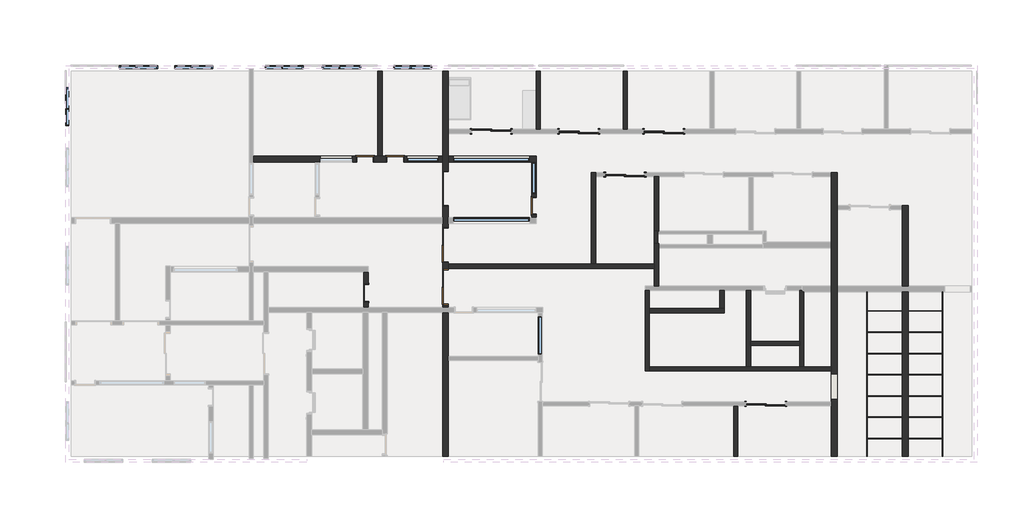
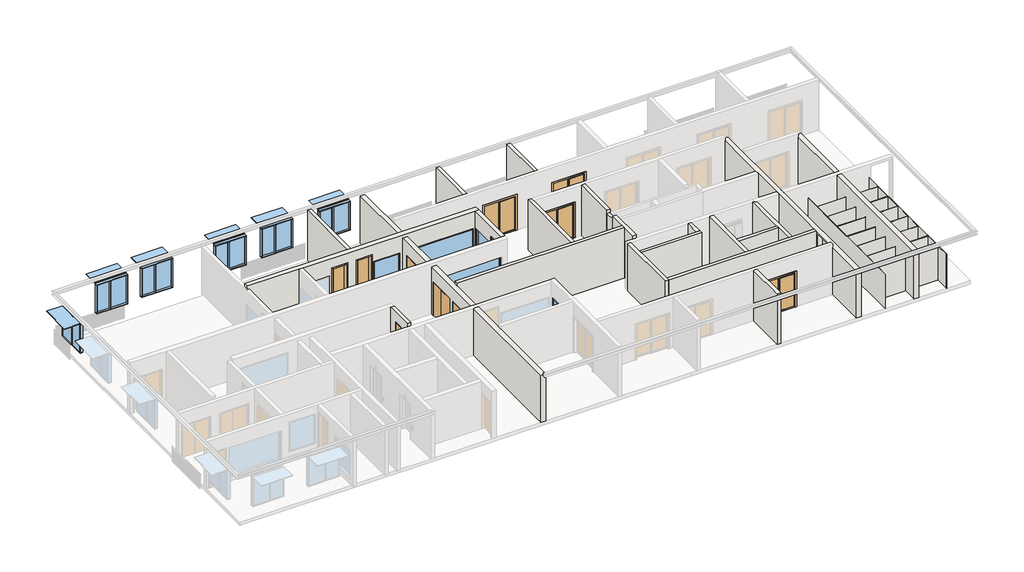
# One storey, part 2 of 5: 38 walls, 12 doors, 11 windows.
"""IFC4 building model written with IfcOpenShell, lengths in millimetres."""

from ifc_helpers import new_model, si_unit, frame, origin, place, context, project, spatial, polyline, outline, extrude, faceted_brep, transform, mapped, element, save
from components import sliding_2_panel_1830_x_2134mm_cc41b145, swing_double_aluminium_frame_door_2040x820x2_040121c3, swing_double_aluminium_frame_door_2040x820x2_4b5585a8, swing_metal_frame_single_dor1_c5ce34d2, swing_metal_frame_single_dor1_8b558513, swing_metal_frame_single_dor1_247f4e75, window_bottom_hung_window_bottom_hung_3b05c637, window_fixed_1500mm_wide_9b338267, window_fixed_1500mm_wide_722047fe, window_fixed_1800mm_wide_fccb3e1f, window_fixed_3600mm_wide_8deb48f9

model = new_model("IFC4")

# Units and contexts
model_context = context("Model", 3, world=origin())
ifc_project = project(units=[si_unit("LENGTHUNIT", "METRE", prefix="MILLI")], contexts=[model_context])

# Site, building, storey
site = spatial("IfcSite", under=ifc_project)
building = spatial("IfcBuilding", under=site)
storey = spatial("IfcBuildingStorey", under=building, Name="3階", Elevation=36100.0)

# Doors
placement = place(None, origin())
sliding_2_panel_1830_x_2134mm_shape = sliding_2_panel_1830_x_2134mm_cc41b145(model_context)
element("IfcDoor", 1, ObjectType="Sliding-2 Panel : 1830 x 2134mm", at=placement, inside=storey, context=model_context, shape_type="MappedRepresentation", body=[
    mapped(sliding_2_panel_1830_x_2134mm_shape, transform((35282.1585166, 2917.005792, 36100.0), x_axis=(-1.0, 0.0, 0.0), y_axis=(0.0, -1.0, 0.0), z_axis=(0.0, 0.0, 1.0))),
])
element("IfcDoor", 2, ObjectType="Sliding-2 Panel : 1830 x 2134mm", at=placement, inside=storey, context=model_context, shape_type="MappedRepresentation", body=[
    mapped(sliding_2_panel_1830_x_2134mm_shape, transform((22388.4034243, 15488.7680774, 36100.0), x_axis=(1.0, 0.0, 0.0), y_axis=(0.0, 1.0, 0.0), z_axis=(0.0, 0.0, 1.0))),
])
element("IfcDoor", 3, ObjectType="Sliding-2 Panel : 1830 x 2134mm", at=placement, inside=storey, context=model_context, shape_type="MappedRepresentation", body=[
    mapped(sliding_2_panel_1830_x_2134mm_shape, transform((26488.4034243, 15742.7680774, 36100.0), x_axis=(-1.0, 0.0, 0.0), y_axis=(0.0, -1.0, 0.0), z_axis=(0.0, 0.0, 1.0))),
])
element("IfcDoor", 4, ObjectType="Sliding-2 Panel : 1830 x 2134mm", at=placement, inside=storey, context=model_context, shape_type="MappedRepresentation", body=[
    mapped(sliding_2_panel_1830_x_2134mm_shape, transform((30488.2012748, 15742.7680774, 36100.0), x_axis=(-1.0, 0.0, 0.0), y_axis=(0.0, -1.0, 0.0), z_axis=(0.0, 0.0, 1.0))),
])
element("IfcDoor", 5, ObjectType="Sliding-2 Panel : 1830 x 2134mm", at=placement, inside=storey, context=model_context, shape_type="MappedRepresentation", body=[
    mapped(sliding_2_panel_1830_x_2134mm_shape, transform((28669.9816372, 13710.5180774, 36100.0), x_axis=(-1.0, 0.0, 0.0), y_axis=(0.0, -1.0, 0.0), z_axis=(0.0, 0.0, 1.0))),
])
swing_double_aluminium_frame_door_2040x820x2_shape = swing_double_aluminium_frame_door_2040x820x2_040121c3(model_context)
element("IfcDoor", 6, ObjectType="Swing_Double : Aluminium Frame Door 2040x820x2", at=placement, inside=storey, context=model_context, shape_type="MappedRepresentation", body=[
    mapped(swing_double_aluminium_frame_door_2040x820x2_shape, transform((20229.6062665, 13127.2680774, 36100.0), x_axis=(0.0, 1.0, 0.0), y_axis=(-1.0, 0.0, 0.0), z_axis=(0.0, 0.0, 1.0))),
])
swing_double_aluminium_frame_door_2040x820x2_2_shape = swing_double_aluminium_frame_door_2040x820x2_4b5585a8(model_context)
element("IfcDoor", 7, ObjectType="Swing_Double : Aluminium Frame Door 2040x820x2", at=placement, inside=storey, context=model_context, shape_type="MappedRepresentation", body=[
    mapped(swing_double_aluminium_frame_door_2040x820x2_2_shape, transform((20229.6062665, 10485.0180774, 36100.0), x_axis=(0.0, 1.0, 0.0), y_axis=(-1.0, 0.0, 0.0), z_axis=(0.0, 0.0, 1.0))),
])
element("IfcDoor", 8, ObjectType="Swing_Double : Aluminium Frame Door 2040x820x2", at=placement, inside=storey, context=model_context, shape_type="MappedRepresentation", body=[
    mapped(swing_double_aluminium_frame_door_2040x820x2_2_shape, transform((20229.6062665, 8507.7680774, 36100.0), x_axis=(0.0, 1.0, 0.0), y_axis=(-1.0, 0.0, 0.0), z_axis=(0.0, 0.0, 1.0))),
])
swing_metal_frame_single_dor1_shape = swing_metal_frame_single_dor1_c5ce34d2(model_context)
element("IfcDoor", 9, ObjectType="Swing_Metal Frame_Single_DOR1 : 2040h x 820 (2110x920 STUD)", at=placement, inside=storey, context=model_context, shape_type="MappedRepresentation", body=[
    mapped(swing_metal_frame_single_dor1_shape, transform((17864.6062665, 14315.7680774, 36100.0), x_axis=(1.0, 0.0, 0.0), y_axis=(0.0, 1.0, 0.0), z_axis=(0.0, 0.0, 1.0))),
])
swing_metal_frame_single_dor1_2_shape = swing_metal_frame_single_dor1_8b558513(model_context)
element("IfcDoor", 10, ObjectType="Swing_Metal Frame_Single_DOR1 : 2040h x 820 (2110x920 STUD)", at=placement, inside=storey, context=model_context, shape_type="MappedRepresentation", body=[
    mapped(swing_metal_frame_single_dor1_2_shape, transform((16494.6062665, 8010.0, 36100.0), x_axis=(0.0, 1.0, 0.0), y_axis=(-1.0, 0.0, 0.0), z_axis=(0.0, 0.0, 1.0))),
])
element("IfcDoor", 11, ObjectType="Swing_Metal Frame_Single_DOR1 : 2040h x 820 (2110x920 STUD)", at=placement, inside=storey, context=model_context, shape_type="MappedRepresentation", body=[
    mapped(swing_metal_frame_single_dor1_2_shape, transform((24388.4034243, 12115.7680774, 36100.0), x_axis=(0.0, 1.0, 0.0), y_axis=(-1.0, 0.0, 0.0), z_axis=(0.0, 0.0, 1.0))),
])
swing_metal_frame_single_dor1_3_shape = swing_metal_frame_single_dor1_247f4e75(model_context)
element("IfcDoor", 12, ObjectType="Swing_Metal Frame_Single_DOR1 : 2040h x 820 (2110x920 STUD)", at=placement, inside=storey, context=model_context, shape_type="MappedRepresentation", body=[
    mapped(swing_metal_frame_single_dor1_3_shape, transform((16444.6062665, 14315.7680774, 36100.0), x_axis=(-1.0, 0.0, 0.0), y_axis=(0.0, -1.0, 0.0), z_axis=(0.0, 0.0, 1.0))),
])

# Walls
element("IfcWall", 13, ObjectType="Brickwork_Double_270mm", at=placement, inside=storey, context=model_context, shape_type="Brep", body=[
    faceted_brep([(20364.6062665, 309.0898177, 39000.0), (20364.6062665, 309.0898177, 36100.0), (20364.6062665, 4832.0449088, 36100.0), (20364.6062665, 5032.0449088, 36100.0), (20364.6062665, 7085.0, 36100.0), (20364.6062665, 7085.0, 39000.0), (20094.6062665, 309.0898177, 36100.0), (20094.6062665, 309.0898177, 39000.0), (20094.6062665, 7085.0, 39000.0), (20094.6062665, 7085.0, 36100.0), (20219.6062665, 309.0898177, 39000.0)], [[[0, 1, 2, 3, 4, 5]], [[6, 7, 8, 9]], [[1, 6, 9, 4, 3, 2]], [[7, 10, 0, 5, 8]], [[1, 0, 10, 7, 6]], [[5, 4, 9, 8]]]),
    faceted_brep([(20364.6062665, 18440.0, 36100.0), (20364.6062665, 18440.0, 39000.0), (20364.6062665, 14450.7680774, 39000.0), (20364.6062665, 14180.7680774, 39000.0), (20364.6062665, 11550.7680774, 39000.0), (20364.6062665, 11280.7680774, 39000.0), (20364.6062665, 7335.0, 39000.0), (20364.6062665, 7335.0, 36100.0), (20364.6062665, 7455.2680774, 36100.0), (20364.6062665, 7455.2680774, 38181.0), (20364.6062665, 9137.2680774, 38181.0), (20364.6062665, 9137.2680774, 36100.0), (20364.6062665, 9163.5180774, 36100.0), (20364.6062665, 9363.5180774, 36100.0), (20364.6062665, 9432.5180774, 36100.0), (20364.6062665, 9432.5180774, 38181.0), (20364.6062665, 11114.5180774, 38181.0), (20364.6062665, 11114.5180774, 36100.0), (20364.6062665, 11280.7680774, 36100.0), (20364.6062665, 11550.7680774, 36100.0), (20364.6062665, 12074.7680774, 36100.0), (20364.6062665, 12074.7680774, 38181.0), (20364.6062665, 13756.7680774, 38181.0), (20364.6062665, 13756.7680774, 36100.0), (20364.6062665, 14180.7680774, 36100.0), (20364.6062665, 14450.7680774, 36100.0), (20364.6062665, 15515.7680774, 36100.0), (20364.6062665, 15715.7680774, 36100.0), (20094.6062665, 18440.0, 39000.0), (20094.6062665, 18440.0, 36100.0), (20094.6062665, 14450.7680774, 36100.0), (20094.6062665, 14180.7680774, 36100.0), (20094.6062665, 13756.7680774, 36100.0), (20094.6062665, 13756.7680774, 38181.0), (20094.6062665, 12074.7680774, 38181.0), (20094.6062665, 12074.7680774, 36100.0), (20094.6062665, 11550.7680774, 36100.0), (20094.6062665, 11280.7680774, 36100.0), (20094.6062665, 11114.5180774, 36100.0), (20094.6062665, 11114.5180774, 38181.0), (20094.6062665, 9432.5180774, 38181.0), (20094.6062665, 9432.5180774, 36100.0), (20094.6062665, 9137.2680774, 36100.0), (20094.6062665, 9137.2680774, 38181.0), (20094.6062665, 7455.2680774, 38181.0), (20094.6062665, 7455.2680774, 36100.0), (20094.6062665, 7335.0, 36100.0), (20094.6062665, 7335.0, 39000.0), (20094.6062665, 11280.7680774, 39000.0), (20094.6062665, 11550.7680774, 39000.0), (20094.6062665, 14180.7680774, 39000.0), (20094.6062665, 14450.7680774, 39000.0)], [[[0, 1, 2, 3, 4, 5, 6, 7, 8, 9, 10, 11, 12, 13, 14, 15, 16, 17, 18, 19, 20, 21, 22, 23, 24, 25, 26, 27]], [[28, 29, 30, 31, 32, 33, 34, 35, 36, 37, 38, 39, 40, 41, 42, 43, 44, 45, 46, 47, 48, 49, 50, 51]], [[29, 0, 27, 26, 25, 24, 23, 32, 31, 30]], [[35, 20, 19, 18, 17, 38, 37, 36]], [[41, 14, 13, 12, 11, 42]], [[45, 8, 7, 46]], [[1, 28, 51, 50, 49, 48, 47, 6, 5, 4, 3, 2]], [[1, 0, 29, 28]], [[21, 20, 35, 34]], [[22, 21, 34, 33]], [[23, 22, 33, 32]], [[15, 14, 41, 40]], [[16, 15, 40, 39]], [[17, 16, 39, 38]], [[9, 8, 45, 44]], [[10, 9, 44, 43]], [[11, 10, 43, 42]], [[7, 6, 47, 46]]]),
])
element("IfcWall", 14, ObjectType="Brickwork_Double_270mm", at=placement, inside=storey, context=model_context, shape_type="Brep", body=[
    faceted_brep([(38647.4654784, 309.0898177, 36100.0), (38647.4654784, 8060.005792, 36100.0), (38647.4654784, 8330.005792, 36100.0), (38647.4654784, 11934.0898177, 36100.0), (38647.4654784, 12134.0898177, 36100.0), (38647.4654784, 13683.5180774, 36100.0), (38647.4654784, 13683.5180774, 39000.0), (38647.4654784, 8330.005792, 39000.0), (38647.4654784, 8060.005792, 39000.0), (38647.4654784, 309.0898177, 39000.0), (38647.4654784, 4210.005792, 38850.0), (38647.4654784, 4210.005792, 36150.0), (38647.4654784, 3010.005792, 36150.0), (38647.4654784, 3010.005792, 38850.0), (38377.4654784, 13683.5180774, 36100.0), (38377.4654784, 13483.5180774, 36100.0), (38377.4654784, 10400.005792, 36100.0), (38377.4654784, 10130.005792, 36100.0), (38377.4654784, 8330.005792, 36100.0), (38377.4654784, 8060.005792, 36100.0), (38377.4654784, 4530.005792, 36100.0), (38377.4654784, 4330.005792, 36100.0), (38377.4654784, 2890.005792, 36100.0), (38377.4654784, 2690.005792, 36100.0), (38377.4654784, 309.0898177, 36100.0), (38377.4654784, 309.0898177, 39000.0), (38377.4654784, 4330.005792, 39000.0), (38377.4654784, 4530.005792, 39000.0), (38377.4654784, 8060.005792, 39000.0), (38377.4654784, 8330.005792, 39000.0), (38377.4654784, 10130.005792, 39000.0), (38377.4654784, 10400.005792, 39000.0), (38377.4654784, 13683.5180774, 39000.0), (38377.4654784, 4210.005792, 36150.0), (38377.4654784, 4210.005792, 38850.0), (38377.4654784, 3010.005792, 38850.0), (38377.4654784, 3010.005792, 36150.0)], [[[0, 1, 2, 3, 4, 5, 6, 7, 8, 9], [10, 11, 12, 13]], [[14, 15, 16, 17, 18, 19, 20, 21, 22, 23, 24, 25, 26, 27, 28, 29, 30, 31, 32], [33, 34, 35, 36]], [[5, 4, 3, 2, 1, 0, 24, 23, 22, 21, 20, 19, 18, 17, 16, 15, 14]], [[0, 9, 25, 24]], [[9, 8, 7, 6, 32, 31, 30, 29, 28, 27, 26, 25]], [[6, 5, 14, 32]], [[10, 34, 33, 11]], [[11, 33, 36, 12]], [[12, 36, 35, 13]], [[34, 10, 13, 35]]]),
])
element("IfcWall", 15, ObjectType="Brickwork_Double_270mm", at=placement, inside=storey, context=model_context, shape_type="Brep", body=[
    faceted_brep([(41712.4654784, 309.0898177, 36100.0), (41712.4654784, 309.0898177, 39000.0), (41712.4654784, 8060.005792, 39000.0), (41712.4654784, 8060.005792, 36100.0), (41712.4654784, 7169.005792, 36100.0), (41712.4654784, 7151.005792, 36100.0), (41712.4654784, 6169.005792, 36100.0), (41712.4654784, 6151.005792, 36100.0), (41712.4654784, 5169.005792, 36100.0), (41712.4654784, 5151.005792, 36100.0), (41712.4654784, 4169.005792, 36100.0), (41712.4654784, 4151.005792, 36100.0), (41712.4654784, 3169.005792, 36100.0), (41712.4654784, 3151.005792, 36100.0), (41712.4654784, 2169.005792, 36100.0), (41712.4654784, 2151.005792, 36100.0), (41712.4654784, 1169.005792, 36100.0), (41712.4654784, 1151.005792, 36100.0), (41982.4654784, 309.0898177, 39000.0), (41982.4654784, 309.0898177, 36100.0), (41982.4654784, 1151.005792, 36100.0), (41982.4654784, 1169.005792, 36100.0), (41982.4654784, 2151.005792, 36100.0), (41982.4654784, 2169.005792, 36100.0), (41982.4654784, 3151.005792, 36100.0), (41982.4654784, 3169.005792, 36100.0), (41982.4654784, 4151.005792, 36100.0), (41982.4654784, 4169.005792, 36100.0), (41982.4654784, 5151.005792, 36100.0), (41982.4654784, 5169.005792, 36100.0), (41982.4654784, 6151.005792, 36100.0), (41982.4654784, 6169.005792, 36100.0), (41982.4654784, 7151.005792, 36100.0), (41982.4654784, 7169.005792, 36100.0), (41982.4654784, 8060.005792, 36100.0), (41982.4654784, 8060.005792, 39000.0)], [[[0, 1, 2, 3, 4, 5, 6, 7, 8, 9, 10, 11, 12, 13, 14, 15, 16, 17]], [[18, 19, 20, 21, 22, 23, 24, 25, 26, 27, 28, 29, 30, 31, 32, 33, 34, 35]], [[19, 0, 17, 16, 15, 14, 13, 12, 11, 10, 9, 8, 7, 6, 5, 4, 3, 34, 33, 32, 31, 30, 29, 28, 27, 26, 25, 24, 23, 22, 21, 20]], [[1, 18, 35, 2]], [[1, 0, 19, 18]], [[3, 2, 35, 34]]]),
    faceted_brep([(41712.4654784, 12134.0898177, 39000.0), (41712.4654784, 12134.0898177, 36100.0), (41712.4654784, 11934.0898177, 36100.0), (41712.4654784, 8330.005792, 36100.0), (41712.4654784, 8330.005792, 39000.0), (41982.4654784, 12134.0898177, 36100.0), (41982.4654784, 12134.0898177, 39000.0), (41982.4654784, 8330.005792, 39000.0), (41982.4654784, 8330.005792, 36100.0)], [[[0, 1, 2, 3, 4]], [[5, 6, 7, 8]], [[1, 5, 8, 3, 2]], [[6, 0, 4, 7]], [[4, 3, 8, 7]], [[1, 0, 6, 5]]]),
])
element("IfcWall", 16, ObjectType="Brickwork_Double_270mm", at=placement, inside=storey, context=model_context, shape_type="Brep", body=[
    faceted_brep([(24488.4034243, 14180.7680774, 39200.0), (24288.4034243, 14180.7680774, 39200.0), (14294.6062665, 14180.7680774, 39200.0), (14094.6062665, 14180.7680774, 39200.0), (11094.6062665, 14180.7680774, 39200.0), (11094.6062665, 14180.7680774, 39000.0), (11194.6062665, 14180.7680774, 39000.0), (11194.6062665, 14180.7680774, 36100.0), (14094.6062665, 14180.7680774, 36100.0), (14294.6062665, 14180.7680774, 36100.0), (16004.6062665, 14180.7680774, 36100.0), (16004.6062665, 14180.7680774, 38590.0), (16884.6062665, 14180.7680774, 38590.0), (16884.6062665, 14180.7680774, 36100.0), (17424.6062665, 14180.7680774, 36100.0), (17424.6062665, 14180.7680774, 38590.0), (18304.6062665, 14180.7680774, 38590.0), (18304.6062665, 14180.7680774, 36100.0), (20094.6062665, 14180.7680774, 36100.0), (20094.6062665, 14180.7680774, 39000.0), (20364.6062665, 14180.7680774, 39000.0), (20364.6062665, 14180.7680774, 36100.0), (24288.4034243, 14180.7680774, 36100.0), (24488.4034243, 14180.7680774, 36100.0), (24188.4034243, 14180.7680774, 38150.0), (24188.4034243, 14180.7680774, 36350.0), (20588.4034243, 14180.7680774, 36350.0), (20588.4034243, 14180.7680774, 38150.0), (15844.6062665, 14180.7680774, 38150.0), (15844.6062665, 14180.7680774, 36350.0), (14344.6062665, 14180.7680774, 36350.0), (14344.6062665, 14180.7680774, 38150.0), (19914.6062665, 14180.7680774, 38150.0), (19914.6062665, 14180.7680774, 36350.0), (18414.6062665, 14180.7680774, 36350.0), (18414.6062665, 14180.7680774, 38150.0), (11094.6062665, 14450.7680774, 39200.0), (17044.6062665, 14450.7680774, 39200.0), (17244.6062665, 14450.7680774, 39200.0), (24488.4034243, 14450.7680774, 39200.0), (24488.4034243, 14450.7680774, 36100.0), (20364.6062665, 14450.7680774, 36100.0), (20364.6062665, 14450.7680774, 39000.0), (20094.6062665, 14450.7680774, 39000.0), (20094.6062665, 14450.7680774, 36100.0), (18304.6062665, 14450.7680774, 36100.0), (18304.6062665, 14450.7680774, 38590.0), (17424.6062665, 14450.7680774, 38590.0), (17424.6062665, 14450.7680774, 36100.0), (17244.6062665, 14450.7680774, 36100.0), (17044.6062665, 14450.7680774, 36100.0), (16884.6062665, 14450.7680774, 36100.0), (16884.6062665, 14450.7680774, 38590.0), (16004.6062665, 14450.7680774, 38590.0), (16004.6062665, 14450.7680774, 36100.0), (11194.6062665, 14450.7680774, 36100.0), (11194.6062665, 14450.7680774, 39000.0), (11094.6062665, 14450.7680774, 39000.0), (24188.4034243, 14450.7680774, 36350.0), (24188.4034243, 14450.7680774, 38150.0), (20588.4034243, 14450.7680774, 38150.0), (20588.4034243, 14450.7680774, 36350.0), (15844.6062665, 14450.7680774, 36350.0), (15844.6062665, 14450.7680774, 38150.0), (14344.6062665, 14450.7680774, 38150.0), (14344.6062665, 14450.7680774, 36350.0), (19914.6062665, 14450.7680774, 36350.0), (19914.6062665, 14450.7680774, 38150.0), (18414.6062665, 14450.7680774, 38150.0), (18414.6062665, 14450.7680774, 36350.0)], [[[0, 1, 2, 3, 4, 5, 6, 7, 8, 9, 10, 11, 12, 13, 14, 15, 16, 17, 18, 19, 20, 21, 22, 23], [24, 25, 26, 27], [28, 29, 30, 31], [32, 33, 34, 35]], [[36, 37, 38, 39, 40, 41, 42, 43, 44, 45, 46, 47, 48, 49, 50, 51, 52, 53, 54, 55, 56, 57], [58, 59, 60, 61], [62, 63, 64, 65], [66, 67, 68, 69]], [[7, 55, 54, 10, 9, 8]], [[14, 13, 51, 50, 49, 48]], [[17, 45, 44, 18]], [[40, 23, 22, 21, 41]], [[4, 3, 2, 1, 0, 39, 38, 37, 36]], [[4, 36, 57, 5]], [[6, 56, 55, 7]], [[56, 6, 5, 57]], [[16, 46, 45, 17]], [[46, 16, 15, 47]], [[47, 15, 14, 48]], [[20, 42, 41, 21]], [[43, 19, 18, 44]], [[42, 20, 19, 43]], [[0, 23, 40, 39]], [[59, 58, 25, 24]], [[60, 59, 24, 27]], [[61, 60, 27, 26]], [[58, 61, 26, 25]], [[11, 10, 54, 53]], [[12, 11, 53, 52]], [[13, 12, 52, 51]], [[63, 62, 29, 28]], [[64, 63, 28, 31]], [[65, 64, 31, 30]], [[62, 65, 30, 29]], [[67, 66, 33, 32]], [[68, 67, 32, 35]], [[69, 68, 35, 34]], [[66, 69, 34, 33]]]),
])
element("IfcWall", 17, ObjectType="C1 - Concrete Type 2", at=placement, inside=storey, context=model_context, shape_type="Brep", body=[
    faceted_brep([(29822.1585166, 7080.005792, 36100.0), (33332.1585166, 7080.005792, 36100.0), (33332.1585166, 7080.005792, 39000.0), (29822.1585166, 7080.005792, 39000.0), (29822.1585166, 7280.005792, 36100.0), (29822.1585166, 7280.005792, 39000.0), (33132.1585166, 7280.005792, 39000.0), (33332.1585166, 7280.005792, 39000.0), (33332.1585166, 7280.005792, 36100.0), (33132.1585166, 7280.005792, 36100.0)], [[[0, 1, 2, 3]], [[4, 5, 6, 7, 8, 9]], [[1, 0, 4, 9, 8]], [[3, 2, 7, 6, 5]], [[2, 1, 8, 7]], [[0, 3, 5, 4]]]),
])
element("IfcWall", 18, ObjectType="C1 - Concrete Type 2", at=placement, inside=storey, context=model_context, shape_type="Brep", body=[
    faceted_brep([(34382.1585166, 8130.005792, 36100.0), (34382.1585166, 4530.005792, 36100.0), (34382.1585166, 4530.005792, 39000.0), (34382.1585166, 8130.005792, 39000.0), (34582.1585166, 8130.005792, 36100.0), (34582.1585166, 8130.005792, 39000.0), (34582.1585166, 5730.005792, 39000.0), (34582.1585166, 5530.005792, 39000.0), (34582.1585166, 4530.005792, 39000.0), (34582.1585166, 4530.005792, 36100.0), (34582.1585166, 5530.005792, 36100.0), (34582.1585166, 5730.005792, 36100.0)], [[[0, 1, 2, 3]], [[4, 5, 6, 7, 8, 9, 10, 11]], [[1, 0, 4, 11, 10, 9]], [[3, 2, 8, 7, 6, 5]], [[0, 3, 5, 4]], [[2, 1, 9, 8]]]),
])
element("IfcWall", 19, ObjectType="C1 - Concrete Type 2", at=placement, inside=storey, context=model_context, shape_type="SweptSolid", body=[
    extrude(outline(polyline([(33132.1585166, 7280.005792), (33132.1585166, 8130.005792), (33332.1585166, 8130.005792), (33332.1585166, 7280.005792), (33132.1585166, 7280.005792)])), frame((0.0, 0.0, 36100.0), z_axis=(0.0, 0.0, 1.0), x_axis=(1.0, 0.0, 0.0)), (0.0, 0.0, 1.0), 2900.0),
])
element("IfcWall", 20, ObjectType="C1 - Concrete Type 2", at=placement, inside=storey, context=model_context, shape_type="SweptSolid", body=[
    extrude(outline(polyline([(36882.1585166, 5530.005792), (34582.1585166, 5530.005792), (34582.1585166, 5730.005792), (36882.1585166, 5730.005792), (36882.1585166, 5530.005792)])), frame((0.0, 0.0, 36100.0), z_axis=(0.0, 0.0, 1.0), x_axis=(1.0, 0.0, 0.0)), (0.0, 0.0, 1.0), 2900.0),
])
element("IfcWall", 21, ObjectType="C1 - Concrete Type 2", at=placement, inside=storey, context=model_context, shape_type="Brep", body=[
    faceted_brep([(36882.1585166, 8130.005792, 36100.0), (36882.1585166, 5730.005792, 36100.0), (36882.1585166, 5530.005792, 36100.0), (36882.1585166, 4530.005792, 36100.0), (36882.1585166, 4530.005792, 39000.0), (36882.1585166, 5530.005792, 39000.0), (36882.1585166, 5730.005792, 39000.0), (36882.1585166, 8130.005792, 39000.0), (37082.1585166, 8060.005792, 36100.0), (37082.1585166, 8060.005792, 39000.0), (37082.1585166, 4530.005792, 39000.0), (37082.1585166, 4530.005792, 36100.0), (36982.1585166, 8130.005792, 36100.0), (36982.1585166, 8060.005792, 36100.0), (36982.1585166, 8060.005792, 39000.0), (36982.1585166, 8130.005792, 39000.0)], [[[0, 1, 2, 3, 4, 5, 6, 7]], [[8, 9, 10, 11]], [[3, 2, 1, 0, 12, 13, 8, 11]], [[7, 6, 5, 4, 10, 9, 14, 15]], [[4, 3, 11, 10]], [[0, 7, 15, 12]], [[15, 14, 13, 12]], [[14, 9, 8, 13]]]),
])
element("IfcWall", 22, ObjectType="C1 - Concrete Type 2", at=placement, inside=storey, context=model_context, shape_type="Brep", body=[
    faceted_brep([(29822.1585166, 4330.005792, 36100.0), (29822.1585166, 4530.005792, 36100.0), (29822.1585166, 7080.005792, 36100.0), (29822.1585166, 7280.005792, 36100.0), (29822.1585166, 8130.005792, 36100.0), (29822.1585166, 8130.005792, 39000.0), (29822.1585166, 7280.005792, 39000.0), (29822.1585166, 7080.005792, 39000.0), (29822.1585166, 4530.005792, 39000.0), (29822.1585166, 4330.005792, 39000.0), (29622.1585166, 4330.005792, 36100.0), (29622.1585166, 4330.005792, 39000.0), (29622.1585166, 8130.005792, 39000.0), (29622.1585166, 8130.005792, 36100.0)], [[[0, 1, 2, 3, 4, 5, 6, 7, 8, 9]], [[10, 11, 12, 13]], [[4, 3, 2, 1, 0, 10, 13]], [[9, 8, 7, 6, 5, 12, 11]], [[0, 9, 11, 10]], [[5, 4, 13, 12]]]),
])
element("IfcWall", 23, ObjectType="C1 - Concrete Type 2", at=placement, inside=storey, context=model_context, shape_type="Brep", body=[
    faceted_brep([(29822.1585166, 4330.005792, 36100.0), (38377.4654784, 4330.005792, 36100.0), (38377.4654784, 4330.005792, 39000.0), (29822.1585166, 4330.005792, 39000.0), (29822.1585166, 4530.005792, 36100.0), (29822.1585166, 4530.005792, 39000.0), (34382.1585166, 4530.005792, 39000.0), (34582.1585166, 4530.005792, 39000.0), (36882.1585166, 4530.005792, 39000.0), (37082.1585166, 4530.005792, 39000.0), (38377.4654784, 4530.005792, 39000.0), (38377.4654784, 4530.005792, 36100.0), (37082.1585166, 4530.005792, 36100.0), (36882.1585166, 4530.005792, 36100.0), (34582.1585166, 4530.005792, 36100.0), (34382.1585166, 4530.005792, 36100.0)], [[[0, 1, 2, 3]], [[4, 5, 6, 7, 8, 9, 10, 11, 12, 13, 14, 15]], [[1, 0, 4, 15, 14, 13, 12, 11]], [[3, 2, 10, 9, 8, 7, 6, 5]], [[0, 3, 5, 4]], [[2, 1, 11, 10]]]),
])
element("IfcWall", 24, ObjectType="C1 - Concrete Type 2", at=placement, inside=storey, context=model_context, shape_type="Brep", body=[
    faceted_brep([(30046.7619997, 10330.005792, 36100.0), (30046.7619997, 9363.5180774, 36100.0), (30046.7619997, 9163.5180774, 36100.0), (30046.7619997, 8330.005792, 36100.0), (30046.7619997, 8330.005792, 39200.0), (30046.7619997, 9163.5180774, 39200.0), (30046.7619997, 9363.5180774, 39200.0), (30046.7619997, 10330.005792, 39200.0), (30246.7619997, 10330.005792, 36100.0), (30246.7619997, 10330.005792, 39200.0), (30246.7619997, 8330.005792, 39200.0), (30246.7619997, 8330.005792, 36100.0), (30246.7619997, 10130.005792, 36100.0), (30246.7619997, 10280.005792, 36100.0)], [[[0, 1, 2, 3, 4, 5, 6, 7]], [[8, 9, 10, 11, 12, 13]], [[3, 2, 1, 0, 8, 13, 12, 11]], [[7, 6, 5, 4, 10, 9]], [[0, 7, 9, 8]], [[4, 3, 11, 10]]]),
])
element("IfcWall", 25, ObjectType="C1 - Concrete Type 2", at=placement, inside=storey, context=model_context, shape_type="SweptSolid", body=[
    extrude(outline(polyline([(17044.6062665, 14450.7680774), (17044.6062665, 18440.0), (17244.6062665, 18440.0), (17244.6062665, 14450.7680774), (17044.6062665, 14450.7680774)])), frame((0.0, 0.0, 36100.0), z_axis=(0.0, 0.0, 1.0), x_axis=(1.0, 0.0, 0.0)), (0.0, 0.0, 1.0), 3100.0),
])
element("IfcWall", 26, ObjectType="C1 - Concrete Type 2", at=placement, inside=storey, context=model_context, shape_type="SweptSolid", body=[
    extrude(outline(polyline([(7335.0, 39200.0), (8996.2680774, 39200.0), (8996.2680774, 36100.0), (8450.0, 36100.0), (8450.0, 38590.0), (7570.0, 38590.0), (7570.0, 36100.0), (7335.0, 36100.0), (7335.0, 39200.0)])), frame((16394.6062665, 0.0, 0.0), z_axis=(1.0, 0.0, 0.0), x_axis=(0.0, 1.0, 0.0)), (0.0, 0.0, 1.0), 200.0),
])
element("IfcWall", 27, ObjectType="C1 - Concrete Type 2", at=placement, inside=storey, context=model_context, shape_type="Brep", body=[
    faceted_brep([(20364.6062665, 9163.5180774, 36100.0), (30046.7619997, 9163.5180774, 36100.0), (30046.7619997, 9163.5180774, 39200.0), (20364.6062665, 9163.5180774, 39200.0), (20364.6062665, 9363.5180774, 36100.0), (20364.6062665, 9363.5180774, 39200.0), (27088.2012748, 9363.5180774, 39200.0), (27288.2012748, 9363.5180774, 39200.0), (30046.7619997, 9363.5180774, 39200.0), (30046.7619997, 9363.5180774, 36100.0), (27288.2012748, 9363.5180774, 36100.0), (27088.2012748, 9363.5180774, 36100.0)], [[[0, 1, 2, 3]], [[4, 5, 6, 7, 8, 9, 10, 11]], [[1, 0, 4, 11, 10, 9]], [[3, 2, 8, 7, 6, 5]], [[0, 3, 5, 4]], [[2, 1, 9, 8]]]),
])
element("IfcWall", 28, ObjectType="C1 - Concrete Type 2", at=placement, inside=storey, context=model_context, shape_type="SweptSolid", body=[
    extrude(outline(polyline([(33782.1585166, 309.0898177), (33782.1585166, 2690.005792), (33982.1585166, 2690.005792), (33982.1585166, 309.0898177), (33782.1585166, 309.0898177)])), frame((0.0, 0.0, 36100.0), z_axis=(0.0, 0.0, 1.0), x_axis=(1.0, 0.0, 0.0)), (0.0, 0.0, 1.0), 3100.0),
])
element("IfcWall", 29, ObjectType="C1 - Concrete Type 2", at=placement, inside=storey, context=model_context, shape_type="SweptSolid", body=[
    extrude(outline(polyline([(24488.4034243, 15715.7680774), (24488.4034243, 18440.0), (24688.4034243, 18440.0), (24688.4034243, 15715.7680774), (24488.4034243, 15715.7680774)])), frame((0.0, 0.0, 36100.0), z_axis=(0.0, 0.0, 1.0), x_axis=(1.0, 0.0, 0.0)), (0.0, 0.0, 1.0), 3100.0),
])
element("IfcWall", 30, ObjectType="C1 - Concrete Type 2", at=placement, inside=storey, context=model_context, shape_type="SweptSolid", body=[
    extrude(outline(polyline([(28588.2012748, 15715.7680774), (28588.2012748, 18440.0), (28788.2012748, 18440.0), (28788.2012748, 15715.7680774), (28588.2012748, 15715.7680774)])), frame((0.0, 0.0, 36100.0), z_axis=(0.0, 0.0, 1.0), x_axis=(1.0, 0.0, 0.0)), (0.0, 0.0, 1.0), 3100.0),
])
element("IfcWall", 31, ObjectType="C1 - Concrete Type 2", at=placement, inside=storey, context=model_context, shape_type="SweptSolid", body=[
    extrude(outline(polyline([(11550.7680774, 39200.0), (14180.7680774, 39200.0), (14180.7680774, 36100.0), (12555.7680774, 36100.0), (12555.7680774, 38590.0), (11675.7680774, 38590.0), (11675.7680774, 36100.0), (11550.7680774, 36100.0), (11550.7680774, 39200.0)]), holes=[polyline([(14165.7680774, 36350.0), (14165.7680774, 38150.0), (12665.7680774, 38150.0), (12665.7680774, 36350.0), (14165.7680774, 36350.0)])]), frame((24288.4034243, 0.0, 0.0), z_axis=(1.0, 0.0, 0.0), x_axis=(0.0, 1.0, 0.0)), (0.0, 0.0, 1.0), 200.0),
])
element("IfcWall", 32, ObjectType="C1 - Concrete Type 2", at=placement, inside=storey, context=model_context, shape_type="Brep", body=[
    faceted_brep([(27288.2012748, 9363.5180774, 36100.0), (27288.2012748, 13483.5180774, 36100.0), (27288.2012748, 13683.5180774, 36100.0), (27288.2012748, 13683.5180774, 39200.0), (27288.2012748, 13483.5180774, 39200.0), (27288.2012748, 9363.5180774, 39200.0), (27088.2012748, 9363.5180774, 36100.0), (27088.2012748, 9363.5180774, 39200.0), (27088.2012748, 13683.5180774, 39200.0), (27088.2012748, 13683.5180774, 36100.0)], [[[0, 1, 2, 3, 4, 5]], [[6, 7, 8, 9]], [[2, 1, 0, 6, 9]], [[5, 4, 3, 8, 7]], [[0, 5, 7, 6]], [[3, 2, 9, 8]]]),
])
element("IfcWall", 33, ObjectType="C1 - Concrete Type 2", at=placement, inside=storey, context=model_context, shape_type="Brep", body=[
    faceted_brep([(30251.7619997, 10930.0213727, 36100.0), (30251.7619997, 13483.5180774, 36100.0), (30251.7619997, 13483.5180774, 39200.0), (30251.7619997, 10930.0213727, 39200.0), (30051.7619997, 10930.0213727, 36100.0), (30051.7619997, 10930.0213727, 39000.0), (30051.7619997, 10930.0213727, 39200.0), (30051.7619997, 13483.5180774, 39200.0), (30051.7619997, 13483.5180774, 36100.0), (30201.7619997, 10930.0213727, 36100.0)], [[[0, 1, 2, 3]], [[4, 5, 6, 7, 8]], [[1, 0, 9, 4, 8]], [[3, 2, 7, 6]], [[2, 1, 8, 7]], [[0, 3, 6, 5, 4, 9]]]),
])
element("IfcWall", 34, ObjectType="C5 - Concrete Type 5 150mm", at=placement, inside=storey, context=model_context, shape_type="Brep", body=[
    faceted_brep([(30051.7619997, 10930.0213727, 36100.0), (30051.7619997, 10265.005792, 36100.0), (30051.7619997, 10265.005792, 39000.0), (30051.7619997, 10930.0213727, 39000.0), (30201.7619997, 10930.0213727, 36100.0), (30201.7619997, 10930.0213727, 39000.0), (30201.7619997, 10780.0213727, 39000.0), (30201.7619997, 10265.005792, 39000.0), (30201.7619997, 10265.005792, 36100.0), (30201.7619997, 10780.0213727, 36100.0)], [[[0, 1, 2, 3]], [[4, 5, 6, 7, 8, 9]], [[1, 0, 4, 9, 8]], [[3, 2, 7, 6, 5]], [[0, 3, 5, 4]], [[2, 1, 8, 7]]]),
])
element("IfcWall", 35, ObjectType="Toilet Partition_18mm", at=placement, inside=storey, context=model_context, shape_type="SweptSolid", body=[
    extrude(outline(polyline([(40056.4654784, 7169.005792), (41712.4654784, 7169.005792), (41712.4654784, 7151.005792), (40056.4654784, 7151.005792), (40056.4654784, 7169.005792)])), frame((0.0, 0.0, 36100.0), z_axis=(0.0, 0.0, 1.0), x_axis=(1.0, 0.0, 0.0)), (0.0, 0.0, 1.0), 2100.0),
])
element("IfcWall", 36, ObjectType="Toilet Partition_18mm", at=placement, inside=storey, context=model_context, shape_type="SweptSolid", body=[
    extrude(outline(polyline([(40056.4654784, 6169.005792), (41712.4654784, 6169.005792), (41712.4654784, 6151.005792), (40056.4654784, 6151.005792), (40056.4654784, 6169.005792)])), frame((0.0, 0.0, 36100.0), z_axis=(0.0, 0.0, 1.0), x_axis=(1.0, 0.0, 0.0)), (0.0, 0.0, 1.0), 2100.0),
])
element("IfcWall", 37, ObjectType="Toilet Partition_18mm", at=placement, inside=storey, context=model_context, shape_type="SweptSolid", body=[
    extrude(outline(polyline([(40056.4654784, 5169.005792), (41712.4654784, 5169.005792), (41712.4654784, 5151.005792), (40056.4654784, 5151.005792), (40056.4654784, 5169.005792)])), frame((0.0, 0.0, 36100.0), z_axis=(0.0, 0.0, 1.0), x_axis=(1.0, 0.0, 0.0)), (0.0, 0.0, 1.0), 2100.0),
])
element("IfcWall", 38, ObjectType="Toilet Partition_18mm", at=placement, inside=storey, context=model_context, shape_type="SweptSolid", body=[
    extrude(outline(polyline([(40056.4654784, 4169.005792), (41712.4654784, 4169.005792), (41712.4654784, 4151.005792), (40056.4654784, 4151.005792), (40056.4654784, 4169.005792)])), frame((0.0, 0.0, 36100.0), z_axis=(0.0, 0.0, 1.0), x_axis=(1.0, 0.0, 0.0)), (0.0, 0.0, 1.0), 2100.0),
])
element("IfcWall", 39, ObjectType="Toilet Partition_18mm", at=placement, inside=storey, context=model_context, shape_type="SweptSolid", body=[
    extrude(outline(polyline([(40056.4654784, 3169.005792), (41712.4654784, 3169.005792), (41712.4654784, 3151.005792), (40056.4654784, 3151.005792), (40056.4654784, 3169.005792)])), frame((0.0, 0.0, 36100.0), z_axis=(0.0, 0.0, 1.0), x_axis=(1.0, 0.0, 0.0)), (0.0, 0.0, 1.0), 2100.0),
])
element("IfcWall", 40, ObjectType="Toilet Partition_18mm", at=placement, inside=storey, context=model_context, shape_type="SweptSolid", body=[
    extrude(outline(polyline([(40056.4654784, 2169.005792), (41712.4654784, 2169.005792), (41712.4654784, 2151.005792), (40056.4654784, 2151.005792), (40056.4654784, 2169.005792)])), frame((0.0, 0.0, 36100.0), z_axis=(0.0, 0.0, 1.0), x_axis=(1.0, 0.0, 0.0)), (0.0, 0.0, 1.0), 2100.0),
])
element("IfcWall", 41, ObjectType="Toilet Partition_18mm", at=placement, inside=storey, context=model_context, shape_type="SweptSolid", body=[
    extrude(outline(polyline([(40056.4654784, 1169.005792), (41712.4654784, 1169.005792), (41712.4654784, 1151.005792), (40056.4654784, 1151.005792), (40056.4654784, 1169.005792)])), frame((0.0, 0.0, 36100.0), z_axis=(0.0, 0.0, 1.0), x_axis=(1.0, 0.0, 0.0)), (0.0, 0.0, 1.0), 2100.0),
])
element("IfcWall", 42, ObjectType="Toilet Partition_18mm", at=placement, inside=storey, context=model_context, shape_type="Brep", body=[
    faceted_brep([(40038.4654784, 8060.005792, 36100.0), (40038.4654784, 309.0898177, 36100.0), (40038.4654784, 309.0898177, 38200.0), (40038.4654784, 8060.005792, 38200.0), (40056.4654784, 8060.005792, 36100.0), (40056.4654784, 8060.005792, 38200.0), (40056.4654784, 7169.005792, 38200.0), (40056.4654784, 7151.005792, 38200.0), (40056.4654784, 6169.005792, 38200.0), (40056.4654784, 6151.005792, 38200.0), (40056.4654784, 5169.005792, 38200.0), (40056.4654784, 5151.005792, 38200.0), (40056.4654784, 4169.005792, 38200.0), (40056.4654784, 4151.005792, 38200.0), (40056.4654784, 3169.005792, 38200.0), (40056.4654784, 3151.005792, 38200.0), (40056.4654784, 2169.005792, 38200.0), (40056.4654784, 2151.005792, 38200.0), (40056.4654784, 1169.005792, 38200.0), (40056.4654784, 1151.005792, 38200.0), (40056.4654784, 309.0898177, 38200.0), (40056.4654784, 309.0898177, 36100.0), (40056.4654784, 1151.005792, 36100.0), (40056.4654784, 1169.005792, 36100.0), (40056.4654784, 2151.005792, 36100.0), (40056.4654784, 2169.005792, 36100.0), (40056.4654784, 3151.005792, 36100.0), (40056.4654784, 3169.005792, 36100.0), (40056.4654784, 4151.005792, 36100.0), (40056.4654784, 4169.005792, 36100.0), (40056.4654784, 5151.005792, 36100.0), (40056.4654784, 5169.005792, 36100.0), (40056.4654784, 6151.005792, 36100.0), (40056.4654784, 6169.005792, 36100.0), (40056.4654784, 7151.005792, 36100.0), (40056.4654784, 7169.005792, 36100.0)], [[[0, 1, 2, 3]], [[4, 5, 6, 7, 8, 9, 10, 11, 12, 13, 14, 15, 16, 17, 18, 19, 20, 21, 22, 23, 24, 25, 26, 27, 28, 29, 30, 31, 32, 33, 34, 35]], [[1, 0, 4, 35, 34, 33, 32, 31, 30, 29, 28, 27, 26, 25, 24, 23, 22, 21]], [[3, 2, 20, 19, 18, 17, 16, 15, 14, 13, 12, 11, 10, 9, 8, 7, 6, 5]], [[0, 3, 5, 4]], [[2, 1, 21, 20]]]),
])
element("IfcWall", 43, ObjectType="Toilet Partition_18mm", at=placement, inside=storey, context=model_context, shape_type="SweptSolid", body=[
    extrude(outline(polyline([(43588.4654784, 7151.005792), (41982.4654784, 7151.005792), (41982.4654784, 7169.005792), (43588.4654784, 7169.005792), (43588.4654784, 7151.005792)])), frame((0.0, 0.0, 36100.0), z_axis=(0.0, 0.0, 1.0), x_axis=(1.0, 0.0, 0.0)), (0.0, 0.0, 1.0), 2100.0),
])
element("IfcWall", 44, ObjectType="Toilet Partition_18mm", at=placement, inside=storey, context=model_context, shape_type="SweptSolid", body=[
    extrude(outline(polyline([(43588.4654784, 6151.005792), (41982.4654784, 6151.005792), (41982.4654784, 6169.005792), (43588.4654784, 6169.005792), (43588.4654784, 6151.005792)])), frame((0.0, 0.0, 36100.0), z_axis=(0.0, 0.0, 1.0), x_axis=(1.0, 0.0, 0.0)), (0.0, 0.0, 1.0), 2100.0),
])
element("IfcWall", 45, ObjectType="Toilet Partition_18mm", at=placement, inside=storey, context=model_context, shape_type="SweptSolid", body=[
    extrude(outline(polyline([(43588.4654784, 5151.005792), (41982.4654784, 5151.005792), (41982.4654784, 5169.005792), (43588.4654784, 5169.005792), (43588.4654784, 5151.005792)])), frame((0.0, 0.0, 36100.0), z_axis=(0.0, 0.0, 1.0), x_axis=(1.0, 0.0, 0.0)), (0.0, 0.0, 1.0), 2100.0),
])
element("IfcWall", 46, ObjectType="Toilet Partition_18mm", at=placement, inside=storey, context=model_context, shape_type="SweptSolid", body=[
    extrude(outline(polyline([(43588.4654784, 4151.005792), (41982.4654784, 4151.005792), (41982.4654784, 4169.005792), (43588.4654784, 4169.005792), (43588.4654784, 4151.005792)])), frame((0.0, 0.0, 36100.0), z_axis=(0.0, 0.0, 1.0), x_axis=(1.0, 0.0, 0.0)), (0.0, 0.0, 1.0), 2100.0),
])
element("IfcWall", 47, ObjectType="Toilet Partition_18mm", at=placement, inside=storey, context=model_context, shape_type="SweptSolid", body=[
    extrude(outline(polyline([(43588.4654784, 3151.005792), (41982.4654784, 3151.005792), (41982.4654784, 3169.005792), (43588.4654784, 3169.005792), (43588.4654784, 3151.005792)])), frame((0.0, 0.0, 36100.0), z_axis=(0.0, 0.0, 1.0), x_axis=(1.0, 0.0, 0.0)), (0.0, 0.0, 1.0), 2100.0),
])
element("IfcWall", 48, ObjectType="Toilet Partition_18mm", at=placement, inside=storey, context=model_context, shape_type="SweptSolid", body=[
    extrude(outline(polyline([(43588.4654784, 2151.005792), (41982.4654784, 2151.005792), (41982.4654784, 2169.005792), (43588.4654784, 2169.005792), (43588.4654784, 2151.005792)])), frame((0.0, 0.0, 36100.0), z_axis=(0.0, 0.0, 1.0), x_axis=(1.0, 0.0, 0.0)), (0.0, 0.0, 1.0), 2100.0),
])
element("IfcWall", 49, ObjectType="Toilet Partition_18mm", at=placement, inside=storey, context=model_context, shape_type="SweptSolid", body=[
    extrude(outline(polyline([(43588.4654784, 1151.005792), (41982.4654784, 1151.005792), (41982.4654784, 1169.005792), (43588.4654784, 1169.005792), (43588.4654784, 1151.005792)])), frame((0.0, 0.0, 36100.0), z_axis=(0.0, 0.0, 1.0), x_axis=(1.0, 0.0, 0.0)), (0.0, 0.0, 1.0), 2100.0),
])
element("IfcWall", 50, ObjectType="Toilet Partition_18mm", at=placement, inside=storey, context=model_context, shape_type="Brep", body=[
    faceted_brep([(43588.4654784, 8060.005792, 36100.0), (43588.4654784, 7169.005792, 36100.0), (43588.4654784, 7151.005792, 36100.0), (43588.4654784, 6169.005792, 36100.0), (43588.4654784, 6151.005792, 36100.0), (43588.4654784, 5169.005792, 36100.0), (43588.4654784, 5151.005792, 36100.0), (43588.4654784, 4169.005792, 36100.0), (43588.4654784, 4151.005792, 36100.0), (43588.4654784, 3169.005792, 36100.0), (43588.4654784, 3151.005792, 36100.0), (43588.4654784, 2169.005792, 36100.0), (43588.4654784, 2151.005792, 36100.0), (43588.4654784, 1169.005792, 36100.0), (43588.4654784, 1151.005792, 36100.0), (43588.4654784, 309.0898177, 36100.0), (43588.4654784, 309.0898177, 38200.0), (43588.4654784, 1151.005792, 38200.0), (43588.4654784, 1169.005792, 38200.0), (43588.4654784, 2151.005792, 38200.0), (43588.4654784, 2169.005792, 38200.0), (43588.4654784, 3151.005792, 38200.0), (43588.4654784, 3169.005792, 38200.0), (43588.4654784, 4151.005792, 38200.0), (43588.4654784, 4169.005792, 38200.0), (43588.4654784, 5151.005792, 38200.0), (43588.4654784, 5169.005792, 38200.0), (43588.4654784, 6151.005792, 38200.0), (43588.4654784, 6169.005792, 38200.0), (43588.4654784, 7151.005792, 38200.0), (43588.4654784, 7169.005792, 38200.0), (43588.4654784, 8060.005792, 38200.0), (43606.4654784, 8060.005792, 36100.0), (43606.4654784, 8060.005792, 38200.0), (43606.4654784, 309.0898177, 38200.0), (43606.4654784, 309.0898177, 36100.0)], [[[0, 1, 2, 3, 4, 5, 6, 7, 8, 9, 10, 11, 12, 13, 14, 15, 16, 17, 18, 19, 20, 21, 22, 23, 24, 25, 26, 27, 28, 29, 30, 31]], [[32, 33, 34, 35]], [[15, 14, 13, 12, 11, 10, 9, 8, 7, 6, 5, 4, 3, 2, 1, 0, 32, 35]], [[31, 30, 29, 28, 27, 26, 25, 24, 23, 22, 21, 20, 19, 18, 17, 16, 34, 33]], [[16, 15, 35, 34]], [[0, 31, 33, 32]]]),
])

# Windows
window_bottom_hung_window_bottom_hung_shape = window_bottom_hung_window_bottom_hung_3b05c637(model_context)
element("IfcWindow", 51, ObjectType="Window_Bottom Hung : Window_Bottom Hung", at=placement, inside=storey, context=model_context, shape_type="MappedRepresentation", body=[
    mapped(window_bottom_hung_window_bottom_hung_shape, transform((18690.8983724, 18575.0, 36000.0), x_axis=(1.0, 0.0, 0.0), y_axis=(0.0, 1.0, 0.0), z_axis=(0.0, 0.0, 1.0))),
])
element("IfcWindow", 52, ObjectType="Window_Bottom Hung : Window_Bottom Hung", at=placement, inside=storey, context=model_context, shape_type="MappedRepresentation", body=[
    mapped(window_bottom_hung_window_bottom_hung_shape, transform((5789.6645991, 18575.0, 36000.0), x_axis=(1.0, 0.0, 0.0), y_axis=(0.0, 1.0, 0.0), z_axis=(0.0, 0.0, 1.0))),
])
element("IfcWindow", 53, ObjectType="Window_Bottom Hung : Window_Bottom Hung", at=placement, inside=storey, context=model_context, shape_type="MappedRepresentation", body=[
    mapped(window_bottom_hung_window_bottom_hung_shape, transform((12644.6062665, 18575.0, 36000.0), x_axis=(1.0, 0.0, 0.0), y_axis=(0.0, 1.0, 0.0), z_axis=(0.0, 0.0, 1.0))),
])
element("IfcWindow", 54, ObjectType="Window_Bottom Hung : Window_Bottom Hung", at=placement, inside=storey, context=model_context, shape_type="MappedRepresentation", body=[
    mapped(window_bottom_hung_window_bottom_hung_shape, transform((15344.6062665, 18575.0, 36100.0), x_axis=(1.0, 0.0, 0.0), y_axis=(0.0, 1.0, 0.0), z_axis=(0.0, 0.0, 1.0))),
])
element("IfcWindow", 55, ObjectType="Window_Bottom Hung : Window_Bottom Hung", at=placement, inside=storey, context=model_context, shape_type="MappedRepresentation", body=[
    mapped(window_bottom_hung_window_bottom_hung_shape, transform((8389.6645991, 18575.0, 36100.0), x_axis=(1.0, 0.0, 0.0), y_axis=(0.0, 1.0, 0.0), z_axis=(0.0, 0.0, 1.0))),
])
element("IfcWindow", 56, ObjectType="Window_Bottom Hung : Window_Bottom Hung", at=placement, inside=storey, context=model_context, shape_type="MappedRepresentation", body=[
    mapped(window_bottom_hung_window_bottom_hung_shape, transform((2504.6057353, 16775.0, 36100.0), x_axis=(0.0, 1.0, 0.0), y_axis=(-1.0, 0.0, 0.0), z_axis=(0.0, 0.0, 1.0))),
])
window_fixed_1500mm_wide_shape = window_fixed_1500mm_wide_9b338267(model_context)
element("IfcWindow", 57, ObjectType="Window_Fixed : 1500mm Wide", at=placement, inside=storey, context=model_context, shape_type="MappedRepresentation", body=[
    mapped(window_fixed_1500mm_wide_shape, transform((19164.6062665, 14315.7680774, 36100.0), x_axis=(-1.0, 0.0, 0.0), y_axis=(0.0, -1.0, 0.0), z_axis=(0.0, 0.0, 1.0))),
])
window_fixed_1500mm_wide_2_shape = window_fixed_1500mm_wide_722047fe(model_context)
element("IfcWindow", 58, ObjectType="Window_Fixed : 1500mm Wide", at=placement, inside=storey, context=model_context, shape_type="MappedRepresentation", body=[
    mapped(window_fixed_1500mm_wide_2_shape, transform((24388.4034243, 13415.7680774, 36100.0), x_axis=(0.0, -1.0, 0.0), y_axis=(1.0, 0.0, 0.0), z_axis=(0.0, 0.0, 1.0))),
])
window_fixed_1800mm_wide_shape = window_fixed_1800mm_wide_fccb3e1f(model_context)
element("IfcWindow", 59, ObjectType="Window_Fixed : 1800mm Wide", at=placement, inside=storey, context=model_context, shape_type="MappedRepresentation", body=[
    mapped(window_fixed_1800mm_wide_shape, transform((24688.4034243, 6011.0224544, 36100.0), x_axis=(0.0, 1.0, 0.0), y_axis=(-1.0, 0.0, 0.0), z_axis=(0.0, 0.0, 1.0))),
])
window_fixed_3600mm_wide_shape = window_fixed_3600mm_wide_8deb48f9(model_context)
element("IfcWindow", 60, ObjectType="Window_Fixed : 3600mm Wide", at=placement, inside=storey, context=model_context, shape_type="MappedRepresentation", body=[
    mapped(window_fixed_3600mm_wide_shape, transform((22388.4034243, 14315.7680774, 36100.0), x_axis=(-1.0, 0.0, 0.0), y_axis=(0.0, -1.0, 0.0), z_axis=(0.0, 0.0, 1.0))),
])
element("IfcWindow", 61, ObjectType="Window_Fixed : 3600mm Wide", at=placement, inside=storey, context=model_context, shape_type="MappedRepresentation", body=[
    mapped(window_fixed_3600mm_wide_shape, transform((22388.4034243, 11415.7680774, 36100.0), x_axis=(1.0, 0.0, 0.0), y_axis=(0.0, 1.0, 0.0), z_axis=(0.0, 0.0, 1.0))),
])

save(model, "model.ifc")
